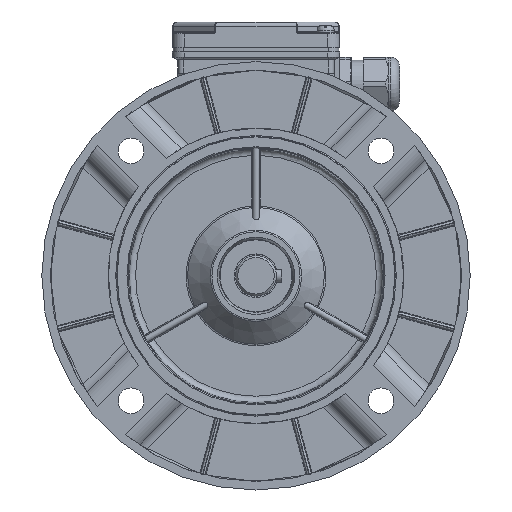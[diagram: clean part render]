
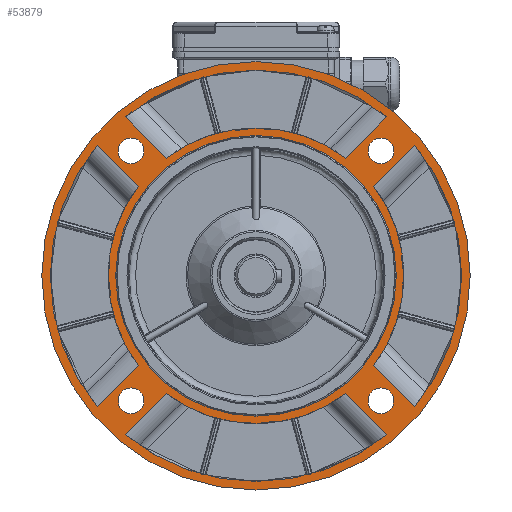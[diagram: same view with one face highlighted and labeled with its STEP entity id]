
A CAD part, left-side view. The second image highlights one B-rep face of the part: STEP entity #53879.
In plain terms, the highlighted planar face has unit normal (-1, 0, 0).
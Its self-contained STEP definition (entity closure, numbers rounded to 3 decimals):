
#1684=LINE('',#77270,#4835);
#1685=LINE('',#77275,#4836);
#1686=LINE('',#77278,#4837);
#1687=LINE('',#77283,#4838);
#1688=LINE('',#77288,#4839);
#1689=LINE('',#77293,#4840);
#1690=LINE('',#77296,#4841);
#1691=LINE('',#77301,#4842);
#4835=VECTOR('',#61508,1000.);
#4836=VECTOR('',#61511,1000.);
#4837=VECTOR('',#61514,1000.);
#4838=VECTOR('',#61517,1000.);
#4839=VECTOR('',#61522,1000.);
#4840=VECTOR('',#61525,1000.);
#4841=VECTOR('',#61528,1000.);
#4842=VECTOR('',#61531,1000.);
#7993=PLANE('',#56400);
#11161=ORIENTED_EDGE('',*,*,#22127,.T.);
#11162=ORIENTED_EDGE('',*,*,#22128,.T.);
#11163=ORIENTED_EDGE('',*,*,#22129,.T.);
#11164=ORIENTED_EDGE('',*,*,#22130,.T.);
#11165=ORIENTED_EDGE('',*,*,#22131,.T.);
#11166=ORIENTED_EDGE('',*,*,#22132,.T.);
#11167=ORIENTED_EDGE('',*,*,#22133,.T.);
#11168=ORIENTED_EDGE('',*,*,#22134,.T.);
#11169=ORIENTED_EDGE('',*,*,#22089,.F.);
#11170=ORIENTED_EDGE('',*,*,#22088,.F.);
#11171=ORIENTED_EDGE('',*,*,#22087,.F.);
#11172=ORIENTED_EDGE('',*,*,#22086,.F.);
#11173=ORIENTED_EDGE('',*,*,#22135,.T.);
#11174=ORIENTED_EDGE('',*,*,#22126,.T.);
#11175=ORIENTED_EDGE('',*,*,#22136,.T.);
#11176=ORIENTED_EDGE('',*,*,#22137,.T.);
#11177=ORIENTED_EDGE('',*,*,#22138,.T.);
#11178=ORIENTED_EDGE('',*,*,#22139,.T.);
#11179=ORIENTED_EDGE('',*,*,#22140,.T.);
#11180=ORIENTED_EDGE('',*,*,#22141,.T.);
#11181=ORIENTED_EDGE('',*,*,#22142,.T.);
#11182=ORIENTED_EDGE('',*,*,#22143,.T.);
#22086=EDGE_CURVE('',#27754,#27754,#31392,.T.);
#22087=EDGE_CURVE('',#27755,#27755,#31393,.T.);
#22088=EDGE_CURVE('',#27756,#27756,#31394,.T.);
#22089=EDGE_CURVE('',#27757,#27757,#31395,.T.);
#22126=EDGE_CURVE('',#27778,#27778,#31405,.T.);
#22127=EDGE_CURVE('',#27779,#27780,#1684,.T.);
#22128=EDGE_CURVE('',#27780,#27781,#31406,.T.);
#22129=EDGE_CURVE('',#27781,#27782,#1685,.T.);
#22130=EDGE_CURVE('',#27782,#27779,#31407,.T.);
#22131=EDGE_CURVE('',#27783,#27784,#1686,.T.);
#22132=EDGE_CURVE('',#27784,#27785,#31408,.T.);
#22133=EDGE_CURVE('',#27785,#27786,#1687,.T.);
#22134=EDGE_CURVE('',#27786,#27783,#31409,.T.);
#22135=EDGE_CURVE('',#27787,#27787,#31410,.F.);
#22136=EDGE_CURVE('',#27788,#27789,#1688,.T.);
#22137=EDGE_CURVE('',#27789,#27790,#31411,.T.);
#22138=EDGE_CURVE('',#27790,#27791,#1689,.T.);
#22139=EDGE_CURVE('',#27791,#27788,#31412,.T.);
#22140=EDGE_CURVE('',#27792,#27793,#1690,.T.);
#22141=EDGE_CURVE('',#27793,#27794,#31413,.T.);
#22142=EDGE_CURVE('',#27794,#27795,#1691,.T.);
#22143=EDGE_CURVE('',#27795,#27792,#31414,.T.);
#27754=VERTEX_POINT('',#77112);
#27755=VERTEX_POINT('',#77115);
#27756=VERTEX_POINT('',#77118);
#27757=VERTEX_POINT('',#77121);
#27778=VERTEX_POINT('',#77268);
#27779=VERTEX_POINT('',#77271);
#27780=VERTEX_POINT('',#77272);
#27781=VERTEX_POINT('',#77274);
#27782=VERTEX_POINT('',#77276);
#27783=VERTEX_POINT('',#77279);
#27784=VERTEX_POINT('',#77280);
#27785=VERTEX_POINT('',#77282);
#27786=VERTEX_POINT('',#77284);
#27787=VERTEX_POINT('',#77287);
#27788=VERTEX_POINT('',#77289);
#27789=VERTEX_POINT('',#77290);
#27790=VERTEX_POINT('',#77292);
#27791=VERTEX_POINT('',#77294);
#27792=VERTEX_POINT('',#77297);
#27793=VERTEX_POINT('',#77298);
#27794=VERTEX_POINT('',#77300);
#27795=VERTEX_POINT('',#77302);
#31392=CIRCLE('',#56364,6.);
#31393=CIRCLE('',#56366,6.);
#31394=CIRCLE('',#56368,6.);
#31395=CIRCLE('',#56370,6.);
#31405=CIRCLE('',#56399,100.);
#31406=CIRCLE('',#56401,69.);
#31407=CIRCLE('',#56402,96.);
#31408=CIRCLE('',#56403,69.);
#31409=CIRCLE('',#56404,96.);
#31410=CIRCLE('',#56405,65.5);
#31411=CIRCLE('',#56406,69.);
#31412=CIRCLE('',#56407,96.);
#31413=CIRCLE('',#56408,69.);
#31414=CIRCLE('',#56409,96.);
#33301=EDGE_LOOP('',(#11161,#11162,#11163,#11164));
#33302=EDGE_LOOP('',(#11165,#11166,#11167,#11168));
#33303=EDGE_LOOP('',(#11169));
#33304=EDGE_LOOP('',(#11170));
#33305=EDGE_LOOP('',(#11171));
#33306=EDGE_LOOP('',(#11172));
#33307=EDGE_LOOP('',(#11173));
#33308=EDGE_LOOP('',(#11174));
#33309=EDGE_LOOP('',(#11175,#11176,#11177,#11178));
#33310=EDGE_LOOP('',(#11179,#11180,#11181,#11182));
#36026=FACE_BOUND('',#33301,.T.);
#36027=FACE_BOUND('',#33302,.T.);
#36028=FACE_BOUND('',#33303,.T.);
#36029=FACE_BOUND('',#33304,.T.);
#36030=FACE_BOUND('',#33305,.T.);
#36031=FACE_BOUND('',#33306,.T.);
#36032=FACE_BOUND('',#33307,.T.);
#36033=FACE_BOUND('',#33308,.T.);
#36034=FACE_BOUND('',#33309,.T.);
#36035=FACE_BOUND('',#33310,.T.);
#53879=ADVANCED_FACE('',(#36026,#36027,#36028,#36029,#36030,#36031,#36032,
#36033,#36034,#36035),#7993,.T.);
#56364=AXIS2_PLACEMENT_3D('',#77111,#61418,#61419);
#56366=AXIS2_PLACEMENT_3D('',#77114,#61422,#61423);
#56368=AXIS2_PLACEMENT_3D('',#77117,#61426,#61427);
#56370=AXIS2_PLACEMENT_3D('',#77120,#61430,#61431);
#56399=AXIS2_PLACEMENT_3D('',#77267,#61504,#61505);
#56400=AXIS2_PLACEMENT_3D('',#77269,#61506,#61507);
#56401=AXIS2_PLACEMENT_3D('',#77273,#61509,#61510);
#56402=AXIS2_PLACEMENT_3D('',#77277,#61512,#61513);
#56403=AXIS2_PLACEMENT_3D('',#77281,#61515,#61516);
#56404=AXIS2_PLACEMENT_3D('',#77285,#61518,#61519);
#56405=AXIS2_PLACEMENT_3D('',#77286,#61520,#61521);
#56406=AXIS2_PLACEMENT_3D('',#77291,#61523,#61524);
#56407=AXIS2_PLACEMENT_3D('',#77295,#61526,#61527);
#56408=AXIS2_PLACEMENT_3D('',#77299,#61529,#61530);
#56409=AXIS2_PLACEMENT_3D('',#77303,#61532,#61533);
#61418=DIRECTION('',(-1.,0.,0.));
#61419=DIRECTION('',(0.,-1.,0.));
#61422=DIRECTION('',(-1.,0.,0.));
#61423=DIRECTION('',(0.,-1.,0.));
#61426=DIRECTION('',(-1.,0.,0.));
#61427=DIRECTION('',(0.,-1.,0.));
#61430=DIRECTION('',(-1.,0.,0.));
#61431=DIRECTION('',(0.,-1.,0.));
#61504=DIRECTION('',(-1.,0.,0.));
#61505=DIRECTION('',(0.,0.,-1.));
#61506=DIRECTION('',(-1.,0.,0.));
#61507=DIRECTION('',(0.,0.,-1.));
#61508=DIRECTION('',(0.,-0.707,-0.707));
#61509=DIRECTION('',(-1.,0.,0.));
#61510=DIRECTION('',(0.,-1.,0.));
#61511=DIRECTION('',(0.,0.707,-0.707));
#61512=DIRECTION('',(1.,0.,0.));
#61513=DIRECTION('',(0.,-1.,0.));
#61514=DIRECTION('',(0.,0.707,0.707));
#61515=DIRECTION('',(-1.,0.,0.));
#61516=DIRECTION('',(0.,1.,0.));
#61517=DIRECTION('',(0.,-0.707,0.707));
#61518=DIRECTION('',(1.,0.,0.));
#61519=DIRECTION('',(0.,1.,0.));
#61520=DIRECTION('',(-1.,0.,0.));
#61521=DIRECTION('',(0.,0.,-1.));
#61522=DIRECTION('',(0.,-0.707,0.707));
#61523=DIRECTION('',(-1.,0.,0.));
#61524=DIRECTION('',(0.,0.,1.));
#61525=DIRECTION('',(0.,-0.707,-0.707));
#61526=DIRECTION('',(1.,0.,0.));
#61527=DIRECTION('',(0.,0.,1.));
#61528=DIRECTION('',(0.,0.707,-0.707));
#61529=DIRECTION('',(-1.,0.,0.));
#61530=DIRECTION('',(0.,0.,-1.));
#61531=DIRECTION('',(0.,0.707,0.707));
#61532=DIRECTION('',(1.,0.,0.));
#61533=DIRECTION('',(0.,0.,-1.));
#77111=CARTESIAN_POINT('',(-44.8,58.336,58.336));
#77112=CARTESIAN_POINT('',(-44.8,52.336,58.336));
#77114=CARTESIAN_POINT('',(-44.8,-58.336,58.336));
#77115=CARTESIAN_POINT('',(-44.8,-64.336,58.336));
#77117=CARTESIAN_POINT('',(-44.8,-58.336,-58.336));
#77118=CARTESIAN_POINT('',(-44.8,-64.336,-58.336));
#77120=CARTESIAN_POINT('',(-44.8,58.336,-58.336));
#77121=CARTESIAN_POINT('',(-44.8,52.336,-58.336));
#77267=CARTESIAN_POINT('',(-44.8,0.,0.));
#77268=CARTESIAN_POINT('',(-44.8,0.,-100.));
#77269=CARTESIAN_POINT('',(-44.8,0.,-65.));
#77270=CARTESIAN_POINT('',(-44.8,53.605,40.403));
#77271=CARTESIAN_POINT('',(-44.8,74.161,60.96));
#77272=CARTESIAN_POINT('',(-44.8,54.943,41.741));
#77273=CARTESIAN_POINT('',(-44.8,0.,0.));
#77274=CARTESIAN_POINT('',(-44.8,54.943,-41.741));
#77275=CARTESIAN_POINT('',(-44.8,73.211,-60.009));
#77276=CARTESIAN_POINT('',(-44.8,74.161,-60.96));
#77277=CARTESIAN_POINT('',(-44.8,0.,0.));
#77278=CARTESIAN_POINT('',(-44.8,-53.605,-40.403));
#77279=CARTESIAN_POINT('',(-44.8,-74.161,-60.96));
#77280=CARTESIAN_POINT('',(-44.8,-54.943,-41.741));
#77281=CARTESIAN_POINT('',(-44.8,0.,0.));
#77282=CARTESIAN_POINT('',(-44.8,-54.943,41.741));
#77283=CARTESIAN_POINT('',(-44.8,-73.211,60.009));
#77284=CARTESIAN_POINT('',(-44.8,-74.161,60.96));
#77285=CARTESIAN_POINT('',(-44.8,0.,0.));
#77286=CARTESIAN_POINT('',(-44.8,0.,0.));
#77287=CARTESIAN_POINT('',(-44.8,0.,-65.5));
#77288=CARTESIAN_POINT('',(-44.8,40.403,-53.605));
#77289=CARTESIAN_POINT('',(-44.8,60.96,-74.161));
#77290=CARTESIAN_POINT('',(-44.8,41.741,-54.943));
#77291=CARTESIAN_POINT('',(-44.8,0.,0.));
#77292=CARTESIAN_POINT('',(-44.8,-41.741,-54.943));
#77293=CARTESIAN_POINT('',(-44.8,-60.009,-73.211));
#77294=CARTESIAN_POINT('',(-44.8,-60.96,-74.161));
#77295=CARTESIAN_POINT('',(-44.8,0.,0.));
#77296=CARTESIAN_POINT('',(-44.8,-40.403,53.605));
#77297=CARTESIAN_POINT('',(-44.8,-60.96,74.161));
#77298=CARTESIAN_POINT('',(-44.8,-41.741,54.943));
#77299=CARTESIAN_POINT('',(-44.8,0.,0.));
#77300=CARTESIAN_POINT('',(-44.8,41.741,54.943));
#77301=CARTESIAN_POINT('',(-44.8,60.009,73.211));
#77302=CARTESIAN_POINT('',(-44.8,60.96,74.161));
#77303=CARTESIAN_POINT('',(-44.8,0.,0.));
